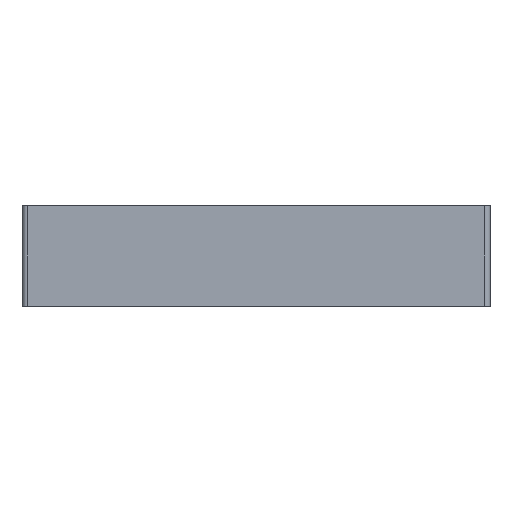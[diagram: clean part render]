
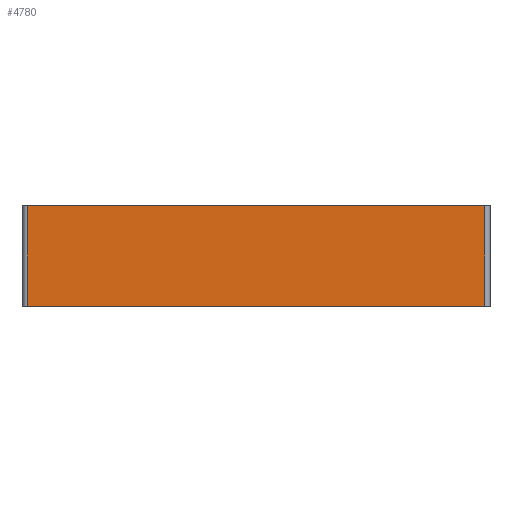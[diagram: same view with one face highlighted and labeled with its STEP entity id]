
A CAD part, left-side view. The second image highlights one B-rep face of the part: STEP entity #4780.
In plain terms, the highlighted planar face has unit normal (-1, 0, 0).
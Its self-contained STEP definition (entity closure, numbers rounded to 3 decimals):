
#44 = PLANE('',#45);
#45 = AXIS2_PLACEMENT_3D('',#46,#47,#48);
#46 = CARTESIAN_POINT('',(73.025,90.,0.));
#47 = DIRECTION('',(0.,0.,1.));
#48 = DIRECTION('',(1.,0.,-0.));
#72 = CYLINDRICAL_SURFACE('',#73,2.);
#73 = AXIS2_PLACEMENT_3D('',#74,#75,#76);
#74 = CARTESIAN_POINT('',(2.,2.,0.));
#75 = DIRECTION('',(-0.,-0.,-1.));
#76 = DIRECTION('',(-1.,0.,0.));
#100 = PLANE('',#101);
#101 = AXIS2_PLACEMENT_3D('',#102,#103,#104);
#102 = CARTESIAN_POINT('',(73.025,90.,38.5));
#103 = DIRECTION('',(0.,0.,1.));
#104 = DIRECTION('',(1.,0.,-0.));
#308 = VERTEX_POINT('',#309);
#309 = CARTESIAN_POINT('',(0.,178.,0.));
#324 = CYLINDRICAL_SURFACE('',#325,2.);
#325 = AXIS2_PLACEMENT_3D('',#326,#327,#328);
#326 = CARTESIAN_POINT('',(2.,178.,0.));
#327 = DIRECTION('',(-0.,-0.,-1.));
#328 = DIRECTION('',(0.,1.,-0.));
#336 = EDGE_CURVE('',#308,#337,#339,.T.);
#337 = VERTEX_POINT('',#338);
#338 = CARTESIAN_POINT('',(0.,2.,0.));
#339 = SURFACE_CURVE('',#340,(#344,#351),.PCURVE_S1.);
#340 = LINE('',#341,#342);
#341 = CARTESIAN_POINT('',(0.,178.,0.));
#342 = VECTOR('',#343,1.);
#343 = DIRECTION('',(0.,-1.,0.));
#344 = PCURVE('',#44,#345);
#345 = DEFINITIONAL_REPRESENTATION('',(#346),#350);
#346 = LINE('',#347,#348);
#347 = CARTESIAN_POINT('',(-73.025,88.));
#348 = VECTOR('',#349,1.);
#349 = DIRECTION('',(0.,-1.));
#350 = ( GEOMETRIC_REPRESENTATION_CONTEXT(2) 
PARAMETRIC_REPRESENTATION_CONTEXT() REPRESENTATION_CONTEXT('2D SPACE',''
  ) );
#351 = PCURVE('',#352,#357);
#352 = PLANE('',#353);
#353 = AXIS2_PLACEMENT_3D('',#354,#355,#356);
#354 = CARTESIAN_POINT('',(0.,178.,0.));
#355 = DIRECTION('',(1.,0.,0.));
#356 = DIRECTION('',(0.,-1.,0.));
#357 = DEFINITIONAL_REPRESENTATION('',(#358),#362);
#358 = LINE('',#359,#360);
#359 = CARTESIAN_POINT('',(0.,0.));
#360 = VECTOR('',#361,1.);
#361 = DIRECTION('',(1.,0.));
#362 = ( GEOMETRIC_REPRESENTATION_CONTEXT(2) 
PARAMETRIC_REPRESENTATION_CONTEXT() REPRESENTATION_CONTEXT('2D SPACE',''
  ) );
#700 = VERTEX_POINT('',#701);
#701 = CARTESIAN_POINT('',(0.,2.,38.5));
#723 = EDGE_CURVE('',#337,#700,#724,.T.);
#724 = SURFACE_CURVE('',#725,(#729,#736),.PCURVE_S1.);
#725 = LINE('',#726,#727);
#726 = CARTESIAN_POINT('',(0.,2.,0.));
#727 = VECTOR('',#728,1.);
#728 = DIRECTION('',(0.,0.,1.));
#729 = PCURVE('',#72,#730);
#730 = DEFINITIONAL_REPRESENTATION('',(#731),#735);
#731 = LINE('',#732,#733);
#732 = CARTESIAN_POINT('',(6.283,0.));
#733 = VECTOR('',#734,1.);
#734 = DIRECTION('',(-0.,-1.));
#735 = ( GEOMETRIC_REPRESENTATION_CONTEXT(2) 
PARAMETRIC_REPRESENTATION_CONTEXT() REPRESENTATION_CONTEXT('2D SPACE',''
  ) );
#736 = PCURVE('',#352,#737);
#737 = DEFINITIONAL_REPRESENTATION('',(#738),#742);
#738 = LINE('',#739,#740);
#739 = CARTESIAN_POINT('',(176.,0.));
#740 = VECTOR('',#741,1.);
#741 = DIRECTION('',(0.,-1.));
#742 = ( GEOMETRIC_REPRESENTATION_CONTEXT(2) 
PARAMETRIC_REPRESENTATION_CONTEXT() REPRESENTATION_CONTEXT('2D SPACE',''
  ) );
#747 = EDGE_CURVE('',#748,#700,#750,.T.);
#748 = VERTEX_POINT('',#749);
#749 = CARTESIAN_POINT('',(0.,178.,38.5));
#750 = SURFACE_CURVE('',#751,(#755,#762),.PCURVE_S1.);
#751 = LINE('',#752,#753);
#752 = CARTESIAN_POINT('',(0.,178.,38.5));
#753 = VECTOR('',#754,1.);
#754 = DIRECTION('',(0.,-1.,0.));
#755 = PCURVE('',#100,#756);
#756 = DEFINITIONAL_REPRESENTATION('',(#757),#761);
#757 = LINE('',#758,#759);
#758 = CARTESIAN_POINT('',(-73.025,88.));
#759 = VECTOR('',#760,1.);
#760 = DIRECTION('',(0.,-1.));
#761 = ( GEOMETRIC_REPRESENTATION_CONTEXT(2) 
PARAMETRIC_REPRESENTATION_CONTEXT() REPRESENTATION_CONTEXT('2D SPACE',''
  ) );
#762 = PCURVE('',#352,#763);
#763 = DEFINITIONAL_REPRESENTATION('',(#764),#768);
#764 = LINE('',#765,#766);
#765 = CARTESIAN_POINT('',(0.,-38.5));
#766 = VECTOR('',#767,1.);
#767 = DIRECTION('',(1.,0.));
#768 = ( GEOMETRIC_REPRESENTATION_CONTEXT(2) 
PARAMETRIC_REPRESENTATION_CONTEXT() REPRESENTATION_CONTEXT('2D SPACE',''
  ) );
#4758 = EDGE_CURVE('',#308,#748,#4759,.T.);
#4759 = SURFACE_CURVE('',#4760,(#4764,#4771),.PCURVE_S1.);
#4760 = LINE('',#4761,#4762);
#4761 = CARTESIAN_POINT('',(0.,178.,0.));
#4762 = VECTOR('',#4763,1.);
#4763 = DIRECTION('',(0.,0.,1.));
#4764 = PCURVE('',#324,#4765);
#4765 = DEFINITIONAL_REPRESENTATION('',(#4766),#4770);
#4766 = LINE('',#4767,#4768);
#4767 = CARTESIAN_POINT('',(4.712,0.));
#4768 = VECTOR('',#4769,1.);
#4769 = DIRECTION('',(-0.,-1.));
#4770 = ( GEOMETRIC_REPRESENTATION_CONTEXT(2) 
PARAMETRIC_REPRESENTATION_CONTEXT() REPRESENTATION_CONTEXT('2D SPACE',''
  ) );
#4771 = PCURVE('',#352,#4772);
#4772 = DEFINITIONAL_REPRESENTATION('',(#4773),#4777);
#4773 = LINE('',#4774,#4775);
#4774 = CARTESIAN_POINT('',(0.,0.));
#4775 = VECTOR('',#4776,1.);
#4776 = DIRECTION('',(0.,-1.));
#4777 = ( GEOMETRIC_REPRESENTATION_CONTEXT(2) 
PARAMETRIC_REPRESENTATION_CONTEXT() REPRESENTATION_CONTEXT('2D SPACE',''
  ) );
#4780 = ADVANCED_FACE('',(#4781),#352,.F.);
#4781 = FACE_BOUND('',#4782,.F.);
#4782 = EDGE_LOOP('',(#4783,#4784,#4785,#4786));
#4783 = ORIENTED_EDGE('',*,*,#4758,.T.);
#4784 = ORIENTED_EDGE('',*,*,#747,.T.);
#4785 = ORIENTED_EDGE('',*,*,#723,.F.);
#4786 = ORIENTED_EDGE('',*,*,#336,.F.);
